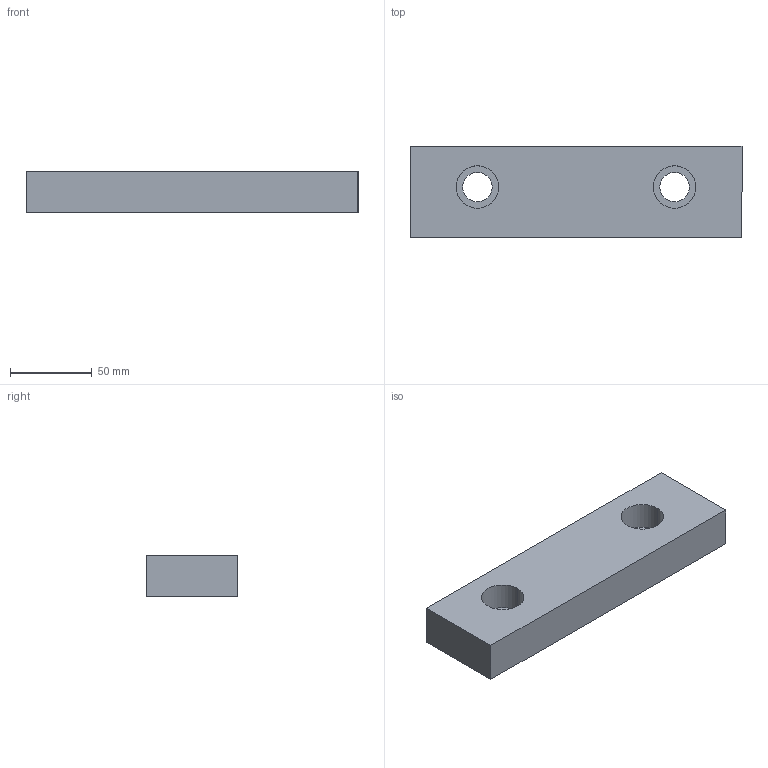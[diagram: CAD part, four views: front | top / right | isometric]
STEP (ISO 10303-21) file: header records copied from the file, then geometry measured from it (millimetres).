
FILE_DESCRIPTION (( 'STEP AP214' ), '1' );
FILE_NAME ('HKMVJ-81A, S [05-0233, 05-0236 ref].step', '2023-05-02T20:41:51', ( '' ), ( '' ), 'SwSTEP 2.0', 'SolidWorks 2022', '' );
FILE_SCHEMA (( 'AUTOMOTIVE_DESIGN' ));
Length unit declared in the file: inch
Products named in the file (1): HKMVJ-81A, S [05-0233, 05-0236 ref]
Bounding box: 203.2 x 55.88 x 25.4 mm (x, y, z)
Volume: 266085.7 mm3; surface area: 38580.2 mm2
Topology: 1 solids, 1 shells, 16 faces, 36 edges, 24 vertices
Faces by surface type: cylinder 8, plane 8
Entity records: 634 total; most frequent: DIRECTION 86, CARTESIAN_POINT 77, ORIENTED_EDGE 72, EDGE_CURVE 36, AXIS2_PLACEMENT_3D 33, VERTEX_POINT 24, EDGE_LOOP 22, VECTOR 20
